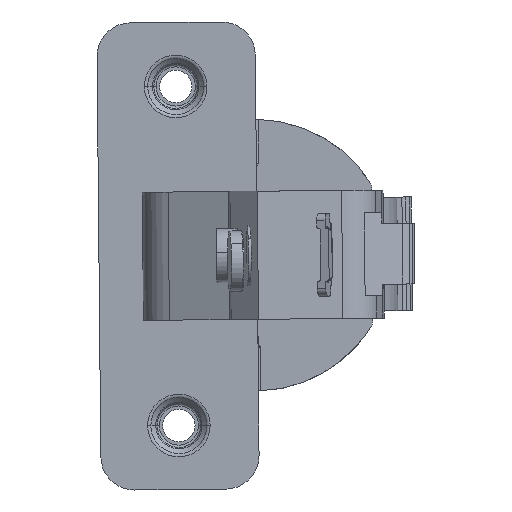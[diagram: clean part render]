
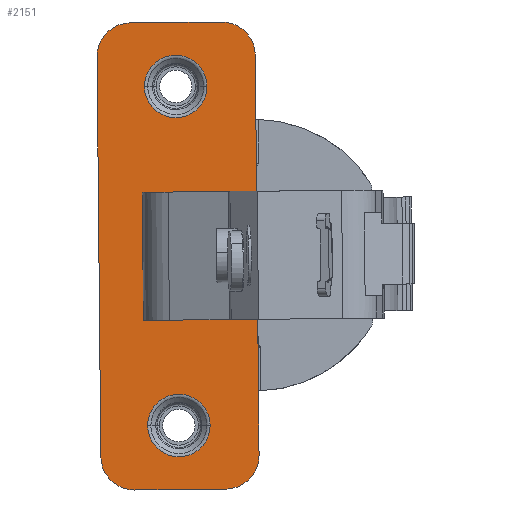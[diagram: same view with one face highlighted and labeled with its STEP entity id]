
A CAD part, left-side view. The second image highlights one B-rep face of the part: STEP entity #2151.
In plain terms, the highlighted planar face has unit normal (-1, 0, 0).
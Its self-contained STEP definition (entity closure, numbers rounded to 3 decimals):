
#2 = EDGE_LOOP ( 'NONE', ( #8046, #7260 ) ) ;
#95 = VERTEX_POINT ( 'NONE', #7909 ) ;
#102 = CARTESIAN_POINT ( 'NONE',  ( -3., 46.489, -44.87 ) ) ;
#149 = EDGE_CURVE ( 'NONE', #7788, #6230, #3804, .T. ) ;
#203 = CARTESIAN_POINT ( 'NONE',  ( -3., 25.818, -9.639 ) ) ;
#238 = CARTESIAN_POINT ( 'NONE',  ( -3., 42.565, 12.705 ) ) ;
#380 = CIRCLE ( 'NONE', #4765, 4.464 ) ;
#400 = CARTESIAN_POINT ( 'NONE',  ( -3., 40.276, -40.776 ) ) ;
#579 = EDGE_CURVE ( 'NONE', #6101, #6953, #2875, .T. ) ;
#643 = AXIS2_PLACEMENT_3D ( 'NONE', #4045, #875, #3485 ) ;
#724 = AXIS2_PLACEMENT_3D ( 'NONE', #3145, #1909, #5774 ) ;
#747 = DIRECTION ( 'NONE',  ( 0., -1., 0.009 ) ) ;
#848 = EDGE_CURVE ( 'NONE', #6101, #5157, #7309, .T. ) ;
#865 = VECTOR ( 'NONE', #5345, 1000. ) ;
#875 = DIRECTION ( 'NONE',  ( 1., 0., 0. ) ) ;
#985 = CARTESIAN_POINT ( 'NONE',  ( -3., 36.127, -40.737 ) ) ;
#1189 = VECTOR ( 'NONE', #7832, 1000. ) ;
#1235 = CARTESIAN_POINT ( 'NONE',  ( -3., 36.127, -40.737 ) ) ;
#1288 = ORIENTED_EDGE ( 'NONE', *, *, #3821, .T. ) ;
#1439 = LINE ( 'NONE', #238, #865 ) ;
#1469 = VERTEX_POINT ( 'NONE', #203 ) ;
#1470 = CIRCLE ( 'NONE', #6001, 4.464 ) ;
#1475 = CARTESIAN_POINT ( 'NONE',  ( -3., 42.523, 8.242 ) ) ;
#1494 = VERTEX_POINT ( 'NONE', #2897 ) ;
#1598 = LINE ( 'NONE', #7411, #3960 ) ;
#1670 = DIRECTION ( 'NONE',  ( -1., 0., 0. ) ) ;
#1844 = EDGE_CURVE ( 'NONE', #3304, #7541, #1439, .T. ) ;
#1909 = DIRECTION ( 'NONE',  ( -1., 0., 0. ) ) ;
#1968 = EDGE_LOOP ( 'NONE', ( #5413, #6665 ) ) ;
#2002 = CIRCLE ( 'NONE', #2954, 4.464 ) ;
#2103 = DIRECTION ( 'NONE',  ( 0., 0.009, 1. ) ) ;
#2151 = ADVANCED_FACE ( 'NONE', ( #7808, #7155, #5252 ), #5901, .T. ) ;
#2159 = DIRECTION ( 'NONE',  ( -1., 0., 0. ) ) ;
#2238 = VECTOR ( 'NONE', #8207, 1000. ) ;
#2260 = EDGE_CURVE ( 'NONE', #7541, #4940, #1470, .T. ) ;
#2320 = EDGE_CURVE ( 'NONE', #3341, #95, #4340, .T. ) ;
#2333 = CARTESIAN_POINT ( 'NONE',  ( -3., 40.975, -9.781 ) ) ;
#2449 = ORIENTED_EDGE ( 'NONE', *, *, #1844, .T. ) ;
#2467 = DIRECTION ( 'NONE',  ( 0., -1., 0.009 ) ) ;
#2515 = ORIENTED_EDGE ( 'NONE', *, *, #5657, .F. ) ;
#2545 = CARTESIAN_POINT ( 'NONE',  ( -3., 40.698, 4.222 ) ) ;
#2654 = ORIENTED_EDGE ( 'NONE', *, *, #7942, .T. ) ;
#2875 = LINE ( 'NONE', #4907, #4675 ) ;
#2897 = CARTESIAN_POINT ( 'NONE',  ( -3., 31.979, -40.698 ) ) ;
#2907 = DIRECTION ( 'NONE',  ( 0., -1., 0.009 ) ) ;
#2954 = AXIS2_PLACEMENT_3D ( 'NONE', #4218, #2159, #5553 ) ;
#3145 = CARTESIAN_POINT ( 'NONE',  ( -3., 42.486, -44.775 ) ) ;
#3226 = AXIS2_PLACEMENT_3D ( 'NONE', #7625, #8279, #3698 ) ;
#3304 = VERTEX_POINT ( 'NONE', #3966 ) ;
#3323 = VECTOR ( 'NONE', #6515, 1000. ) ;
#3341 = VERTEX_POINT ( 'NONE', #2545 ) ;
#3483 = ORIENTED_EDGE ( 'NONE', *, *, #5141, .T. ) ;
#3485 = DIRECTION ( 'NONE',  ( 0., -1., 0.009 ) ) ;
#3625 = CARTESIAN_POINT ( 'NONE',  ( -3., 29.912, -49.179 ) ) ;
#3676 = ORIENTED_EDGE ( 'NONE', *, *, #2260, .T. ) ;
#3698 = DIRECTION ( 'NONE',  ( 0., -1., 0.009 ) ) ;
#3803 = LINE ( 'NONE', #7536, #3323 ) ;
#3804 = LINE ( 'NONE', #5144, #8380 ) ;
#3821 = EDGE_CURVE ( 'NONE', #1469, #7725, #1598, .T. ) ;
#3858 = VERTEX_POINT ( 'NONE', #102 ) ;
#3960 = VECTOR ( 'NONE', #4216, 1000. ) ;
#3966 = CARTESIAN_POINT ( 'NONE',  ( -3., 30.493, 12.818 ) ) ;
#4045 = CARTESIAN_POINT ( 'NONE',  ( -3., 36.549, 4.261 ) ) ;
#4059 = CARTESIAN_POINT ( 'NONE',  ( -3., 41.984, -49.292 ) ) ;
#4147 = CARTESIAN_POINT ( 'NONE',  ( -3., 40.815, -26.78 ) ) ;
#4167 = AXIS2_PLACEMENT_3D ( 'NONE', #985, #1670, #2907 ) ;
#4192 = ORIENTED_EDGE ( 'NONE', *, *, #848, .T. ) ;
#4216 = DIRECTION ( 'NONE',  ( 0., 0.009, 1. ) ) ;
#4218 = CARTESIAN_POINT ( 'NONE',  ( -3., 30.451, 8.355 ) ) ;
#4312 = EDGE_CURVE ( 'NONE', #1494, #7308, #5948, .T. ) ;
#4314 = CARTESIAN_POINT ( 'NONE',  ( -3., 26.004, 10.197 ) ) ;
#4340 = CIRCLE ( 'NONE', #643, 4.149 ) ;
#4368 = ORIENTED_EDGE ( 'NONE', *, *, #6199, .T. ) ;
#4547 = LINE ( 'NONE', #5274, #1189 ) ;
#4591 = CARTESIAN_POINT ( 'NONE',  ( -3., 40.082, -104.989 ) ) ;
#4675 = VECTOR ( 'NONE', #6120, 1000. ) ;
#4694 = CIRCLE ( 'NONE', #6081, 4.149 ) ;
#4765 = AXIS2_PLACEMENT_3D ( 'NONE', #4840, #5608, #4921 ) ;
#4840 = CARTESIAN_POINT ( 'NONE',  ( -3., 29.953, -44.715 ) ) ;
#4907 = CARTESIAN_POINT ( 'NONE',  ( -3., 25.659, -26.638 ) ) ;
#4921 = DIRECTION ( 'NONE',  ( 0., -1., 0.009 ) ) ;
#4940 = VERTEX_POINT ( 'NONE', #7935 ) ;
#5026 = EDGE_CURVE ( 'NONE', #7725, #3304, #2002, .T. ) ;
#5141 = EDGE_CURVE ( 'NONE', #3858, #7788, #7509, .T. ) ;
#5144 = CARTESIAN_POINT ( 'NONE',  ( -3., 29.912, -49.179 ) ) ;
#5157 = VERTEX_POINT ( 'NONE', #2333 ) ;
#5252 = FACE_BOUND ( 'NONE', #2, .T. ) ;
#5274 = CARTESIAN_POINT ( 'NONE',  ( -3., 25.818, -9.639 ) ) ;
#5337 = DIRECTION ( 'NONE',  ( -1., 0., 0. ) ) ;
#5345 = DIRECTION ( 'NONE',  ( 0., 1., -0.009 ) ) ;
#5384 = ORIENTED_EDGE ( 'NONE', *, *, #149, .T. ) ;
#5413 = ORIENTED_EDGE ( 'NONE', *, *, #8173, .T. ) ;
#5525 = LINE ( 'NONE', #4314, #2238 ) ;
#5553 = DIRECTION ( 'NONE',  ( 0., -1., 0.009 ) ) ;
#5608 = DIRECTION ( 'NONE',  ( -1., 0., 0. ) ) ;
#5611 = CARTESIAN_POINT ( 'NONE',  ( -3., 25.659, -26.638 ) ) ;
#5657 = EDGE_CURVE ( 'NONE', #1469, #5157, #4547, .T. ) ;
#5739 = DIRECTION ( 'NONE',  ( 1., 0., 0. ) ) ;
#5774 = DIRECTION ( 'NONE',  ( 0., 0., 1. ) ) ;
#5803 = EDGE_LOOP ( 'NONE', ( #8043, #3483, #5384, #4368, #2654, #6202, #4192, #2515, #1288, #6448, #2449, #3676 ) ) ;
#5816 = CARTESIAN_POINT ( 'NONE',  ( -3., 25.49, -44.673 ) ) ;
#5901 = PLANE ( 'NONE',  #724 ) ;
#5948 = CIRCLE ( 'NONE', #4167, 4.149 ) ;
#6001 = AXIS2_PLACEMENT_3D ( 'NONE', #1475, #5337, #747 ) ;
#6081 = AXIS2_PLACEMENT_3D ( 'NONE', #1235, #7169, #6880 ) ;
#6101 = VERTEX_POINT ( 'NONE', #4147 ) ;
#6120 = DIRECTION ( 'NONE',  ( 0., -1., 0.009 ) ) ;
#6199 = EDGE_CURVE ( 'NONE', #6230, #6332, #380, .T. ) ;
#6202 = ORIENTED_EDGE ( 'NONE', *, *, #579, .F. ) ;
#6230 = VERTEX_POINT ( 'NONE', #3625 ) ;
#6332 = VERTEX_POINT ( 'NONE', #5816 ) ;
#6448 = ORIENTED_EDGE ( 'NONE', *, *, #5026, .T. ) ;
#6491 = AXIS2_PLACEMENT_3D ( 'NONE', #7767, #5739, #2467 ) ;
#6515 = DIRECTION ( 'NONE',  ( 0., -0.009, -1. ) ) ;
#6665 = ORIENTED_EDGE ( 'NONE', *, *, #2320, .T. ) ;
#6743 = VECTOR ( 'NONE', #2103, 1000. ) ;
#6770 = CIRCLE ( 'NONE', #6491, 4.149 ) ;
#6880 = DIRECTION ( 'NONE',  ( 0., -1., 0.009 ) ) ;
#6921 = CARTESIAN_POINT ( 'NONE',  ( -3., 25.988, 8.397 ) ) ;
#6953 = VERTEX_POINT ( 'NONE', #5611 ) ;
#7155 = FACE_BOUND ( 'NONE', #1968, .T. ) ;
#7169 = DIRECTION ( 'NONE',  ( -1., 0., 0. ) ) ;
#7260 = ORIENTED_EDGE ( 'NONE', *, *, #7783, .F. ) ;
#7308 = VERTEX_POINT ( 'NONE', #400 ) ;
#7309 = LINE ( 'NONE', #4591, #6743 ) ;
#7411 = CARTESIAN_POINT ( 'NONE',  ( -3., 26.004, 10.197 ) ) ;
#7509 = CIRCLE ( 'NONE', #3226, 4.464 ) ;
#7536 = CARTESIAN_POINT ( 'NONE',  ( -3., 46.903, -0.738 ) ) ;
#7541 = VERTEX_POINT ( 'NONE', #8016 ) ;
#7625 = CARTESIAN_POINT ( 'NONE',  ( -3., 42.026, -44.829 ) ) ;
#7712 = EDGE_CURVE ( 'NONE', #4940, #3858, #3803, .T. ) ;
#7725 = VERTEX_POINT ( 'NONE', #6921 ) ;
#7767 = CARTESIAN_POINT ( 'NONE',  ( -3., 36.549, 4.261 ) ) ;
#7777 = DIRECTION ( 'NONE',  ( 0., -1., 0.009 ) ) ;
#7783 = EDGE_CURVE ( 'NONE', #7308, #1494, #4694, .T. ) ;
#7788 = VERTEX_POINT ( 'NONE', #4059 ) ;
#7808 = FACE_OUTER_BOUND ( 'NONE', #5803, .T. ) ;
#7832 = DIRECTION ( 'NONE',  ( 0., 1., -0.009 ) ) ;
#7909 = CARTESIAN_POINT ( 'NONE',  ( -3., 32.401, 4.3 ) ) ;
#7935 = CARTESIAN_POINT ( 'NONE',  ( -3., 46.987, 8.2 ) ) ;
#7942 = EDGE_CURVE ( 'NONE', #6332, #6953, #5525, .T. ) ;
#8016 = CARTESIAN_POINT ( 'NONE',  ( -3., 42.565, 12.705 ) ) ;
#8043 = ORIENTED_EDGE ( 'NONE', *, *, #7712, .T. ) ;
#8046 = ORIENTED_EDGE ( 'NONE', *, *, #4312, .F. ) ;
#8173 = EDGE_CURVE ( 'NONE', #95, #3341, #6770, .T. ) ;
#8207 = DIRECTION ( 'NONE',  ( 0., 0.009, 1. ) ) ;
#8279 = DIRECTION ( 'NONE',  ( -1., 0., 0. ) ) ;
#8380 = VECTOR ( 'NONE', #7777, 1000. ) ;
